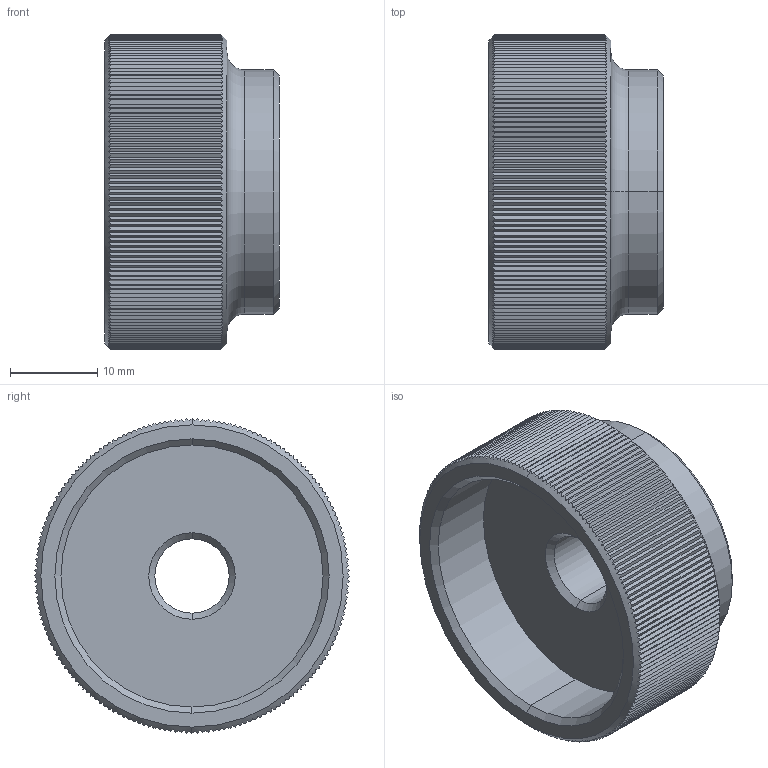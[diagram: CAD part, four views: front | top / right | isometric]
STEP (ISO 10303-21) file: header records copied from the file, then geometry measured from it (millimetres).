
FILE_DESCRIPTION (( 'STEP AP203' ), '1' );
FILE_NAME ('37160.W0010.step', '2011-09-15T08:11:06', ( 'Wixroyd' ), ( 'Wixroyd' ), 'SwSTEP 2.0', 'SolidWorks 2009', '' );
FILE_SCHEMA (( 'CONFIG_CONTROL_DESIGN' ));
Length unit declared in the file: millimetre
Products named in the file (1): 37160.W0010
Bounding box: 20 x 36 x 36 mm (x, y, z)
Volume: 11401.5 mm3; surface area: 5231.7 mm2
Topology: 1 solids, 1 shells, 382 faces, 1122 edges, 744 vertices
Faces by surface type: plane 364, cone 10, cylinder 6, torus 2
Entity records: 13237 total; most frequent: CARTESIAN_POINT 4409, ORIENTED_EDGE 2244, DIRECTION 1194, EDGE_CURVE 1122, VERTEX_POINT 744, B_SPLINE_CURVE_WITH_KNOTS 720, AXIS2_PLACEMENT_3D 409, EDGE_LOOP 386
